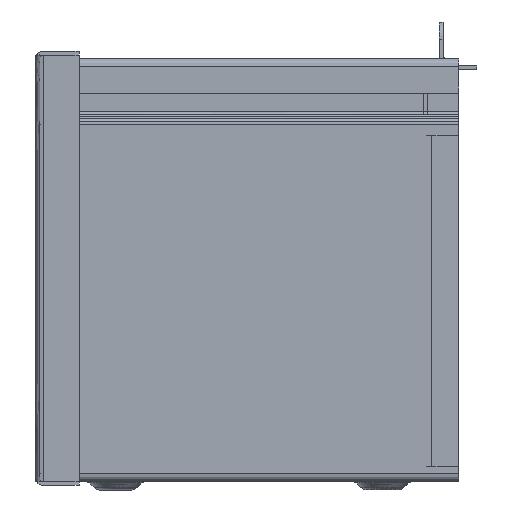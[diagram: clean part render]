
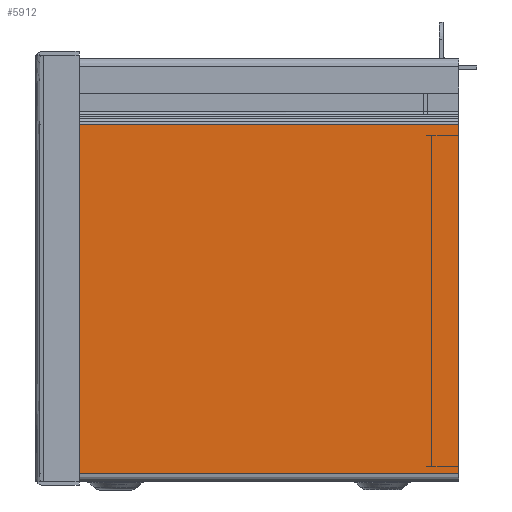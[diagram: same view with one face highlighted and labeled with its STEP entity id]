
A CAD part, left-side view. The second image highlights one B-rep face of the part: STEP entity #5912.
In plain terms, the highlighted free-form (B-spline) face has degree [1, 1] with [2, 2] control points.
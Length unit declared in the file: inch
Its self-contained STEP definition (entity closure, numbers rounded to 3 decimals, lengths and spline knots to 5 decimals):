
#5840=CARTESIAN_POINT('V66',(-0.055,0.06,
   0.));
#5841=VERTEX_POINT('V66',#5840);
#5855=CARTESIAN_POINT('V67',(-0.055,0.06,
   -6.));
#5856=VERTEX_POINT('V67',#5855);
#5857=CARTESIAN_POINT('E90',(-0.055,0.06,
   0.));
#5858=CARTESIAN_POINT('E90',(-0.055,0.06,
   -6.));
#5859=QUASI_UNIFORM_CURVE('E90',1,(#5857,#5858),.POLYLINE_FORM.,.F.,
   .U.);
#5860=EDGE_CURVE('E90',#5841,#5856,#5859,.T.);
#5885=CARTESIAN_POINT('F41',(-0.055,5.05515,
   0.));
#5886=CARTESIAN_POINT('F41',(-0.055,5.05515,
   -6.));
#5887=CARTESIAN_POINT('F41',(-0.055,0.06,
   0.));
#5888=CARTESIAN_POINT('F41',(-0.055,0.06,
   -6.));
#5889=B_SPLINE_SURFACE_WITH_KNOTS('F41',1,1,((#5885,#5887),(#5886,
   #5888)),.PLANE_SURF.,.F.,.F.,.U.,(2,2),(2,2),(
   0.00024,1.20083),(0.00024,
   0.99976),.UNSPECIFIED.);
#5890=CARTESIAN_POINT('V64',(-0.055,5.05515,
   -6.));
#5891=VERTEX_POINT('V64',#5890);
#5892=CARTESIAN_POINT('E107',(-0.055,5.05515,
   -6.));
#5893=CARTESIAN_POINT('E107',(-0.055,0.06,
   -6.));
#5894=QUASI_UNIFORM_CURVE('E107',1,(#5892,#5893),.POLYLINE_FORM.,.F.,
   .U.);
#5895=EDGE_CURVE('E107',#5891,#5856,#5894,.T.);
#5896=ORIENTED_EDGE('E107',*,*,#5895,.T.);
#5897=ORIENTED_EDGE('E90',*,*,#5860,.F.);
#5898=CARTESIAN_POINT('V61',(-0.055,5.05515,
   0.));
#5899=VERTEX_POINT('V61',#5898);
#5900=CARTESIAN_POINT('E108',(-0.055,0.06,
   0.0));
#5901=CARTESIAN_POINT('E108',(-0.055,5.05515,
   0.0));
#5902=QUASI_UNIFORM_CURVE('E108',1,(#5900,#5901),.POLYLINE_FORM.,.F.,
   .U.);
#5903=EDGE_CURVE('E108',#5841,#5899,#5902,.T.);
#5904=ORIENTED_EDGE('E108',*,*,#5903,.T.);
#5905=CARTESIAN_POINT('E88',(-0.055,5.05515,
   -6.));
#5906=CARTESIAN_POINT('E88',(-0.055,5.05515,
   0.));
#5907=QUASI_UNIFORM_CURVE('E88',1,(#5905,#5906),.POLYLINE_FORM.,.F.,
   .U.);
#5908=EDGE_CURVE('E88',#5891,#5899,#5907,.T.);
#5909=ORIENTED_EDGE('E88',*,*,#5908,.F.);
#5910=EDGE_LOOP('F41',(#5896,#5897,#5904,#5909));
#5911=FACE_OUTER_BOUND('F41',#5910,.T.);
#5912=ADVANCED_FACE('F41',(#5911),#5889,.T.);
